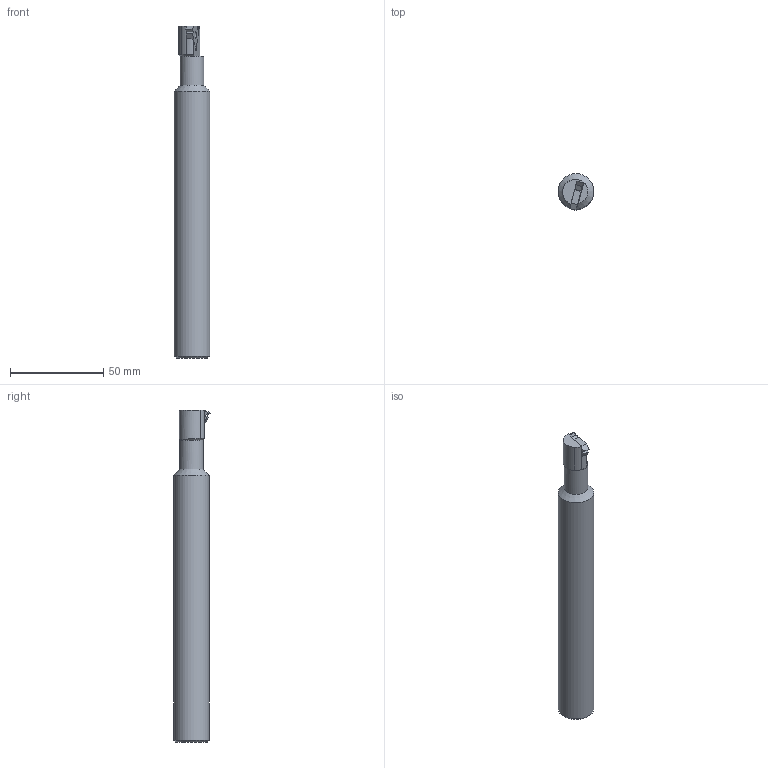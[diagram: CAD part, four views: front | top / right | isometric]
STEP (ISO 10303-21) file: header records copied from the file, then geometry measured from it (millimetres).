
FILE_DESCRIPTION (( 'STEP AP203' ), '1' );
FILE_NAME ('IRH050N-16.STEP', '2020-11-06T08:59:38', ( '' ), ( '' ), 'SwSTEP 2.0', 'SolidWorks 2015', '' );
FILE_SCHEMA (( 'CONFIG_CONTROL_DESIGN' ));
Length unit declared in the file: millimetre
Products named in the file (4): IRH050N-16; IRH050N-16_ル遽; IR16_ル遽
Assembly tree (3 placements, depth 3):
  IRH050N-16
    IRH050N-16
      IRH050N-16_ル遽
      IR16_ル遽
Bounding box: 19.05 x 19.68 x 177.8 mm (x, y, z)
Volume: 45050.9 mm3; surface area: 10832.3 mm2
Topology: 2 solids, 2 shells, 36 faces, 91 edges, 59 vertices
Faces by surface type: plane 24, cylinder 9, cone 3
Full cylindrical faces by diameter (mm): 3.5 x1, 12.7 x1, 19.05 x1
Entity records: 1497 total; most frequent: CARTESIAN_POINT 250, DIRECTION 179, ORIENTED_EDGE 168, EDGE_CURVE 84, AXIS2_PLACEMENT_3D 60, VECTOR 59, LINE 59, VERTEX_POINT 57
